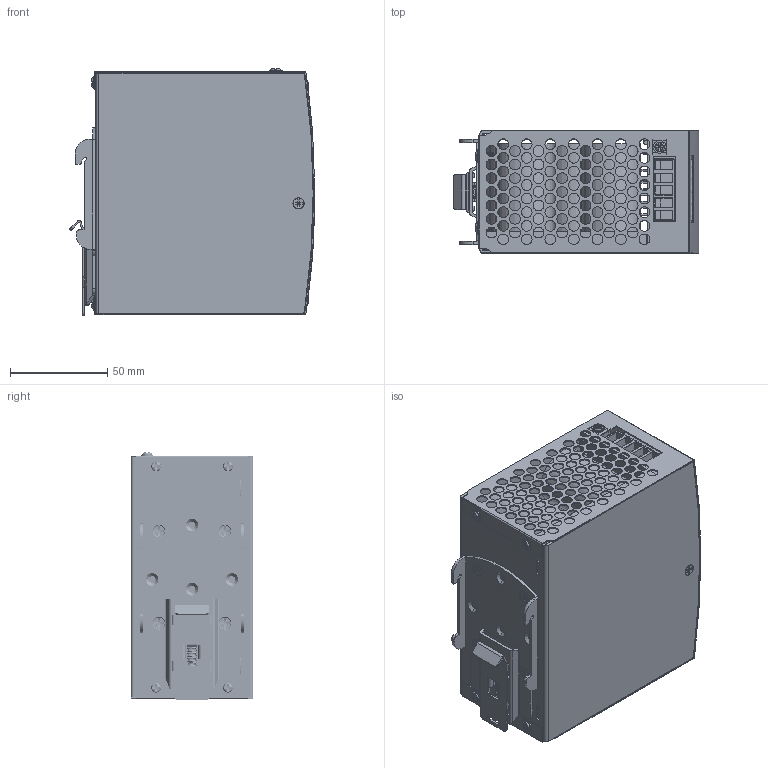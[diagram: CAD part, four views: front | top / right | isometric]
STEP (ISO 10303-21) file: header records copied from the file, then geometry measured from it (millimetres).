
FILE_DESCRIPTION (( 'STEP AP214' ), '1' );
FILE_NAME ('AMBF4.STEP', '2025-03-06T16:58:29', ( '' ), ( '' ), 'SwSTEP 2.0', 'SolidWorks 2025', '' );
FILE_SCHEMA (( 'AUTOMOTIVE_DESIGN' ));
Length unit declared in the file: millimetre
Products named in the file (32): C; TS_ASM_ASM; _X2_88C5914D_X0_1_ASM_ASM; HS1; TB1; 1HH2979G; F1; PRT0006_1_2; CY3; DKKKK_ASM; B; DB-PCB_ASM; TB2; PCB-B_ASM_ASM; AMBF4; DB40-GAI; LED; YSD-GDA_22_7_2; PCB-A_ASM_ASM; F3; HS_ASM_ASM; PRT0007_12; C1; M3X6; 480-KK_ASM_1_ASM_3_ASM; ASM0002_ASM_1_ASM_2_ASM; 6; L_X2_578B_X0_PIN_1; F2; A; DB40-DI; TB1_1
Assembly tree (50 placements, depth 6):
  AMBF4
    DB-PCB_ASM
      _X2_88C5914D_X0_1_ASM_ASM
        HS_ASM_ASM
          L_X2_578B_X0_PIN_1
          HS1
        PCB-B_ASM_ASM
          HS_ASM_ASM  x2
            L_X2_578B_X0_PIN_1
            HS1
          C
          CY3
          TB1_1
          TB2
          TB1
          F1
          B
        PCB-A_ASM_ASM
          TS_ASM_ASM
            F3
            F2
          C1  x8
          LED
          A
        1HH2979G
    DKKKK_ASM
      480-KK_ASM_1_ASM_3_ASM
        ASM0002_ASM_1_ASM_2_ASM
          PRT0006_1_2
          YSD-GDA_22_7_2
          PRT0007_12
    DB40-DI
    DB40-GAI
    M3X6  x7
    6  x5
Bounding box: 126.55 x 63 x 127.56 mm (x, y, z)
Volume: 416800.8 mm3; surface area: 269348.4 mm2
Topology: 43 solids, 43 shells, 2493 faces, 6494 edges, 4168 vertices
Faces by surface type: cylinder 1208, plane 931, bspline 227, cone 67, torus 40, sphere 20
Entity records: 67331 total; most frequent: CARTESIAN_POINT 21554, DIRECTION 9203, ORIENTED_EDGE 8944, EDGE_CURVE 4472, AXIS2_PLACEMENT_3D 3337, VERTEX_POINT 2928, VECTOR 2529, LINE 2529
